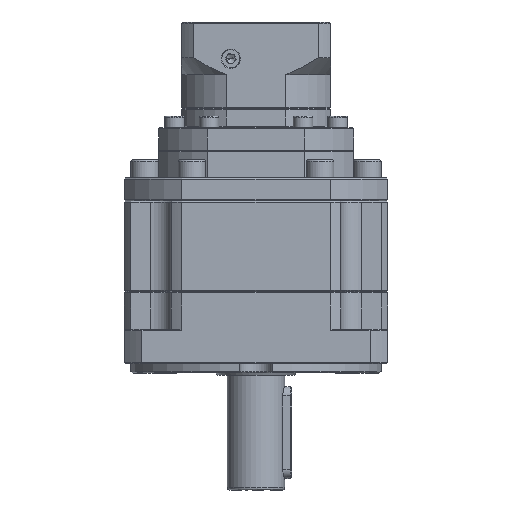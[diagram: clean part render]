
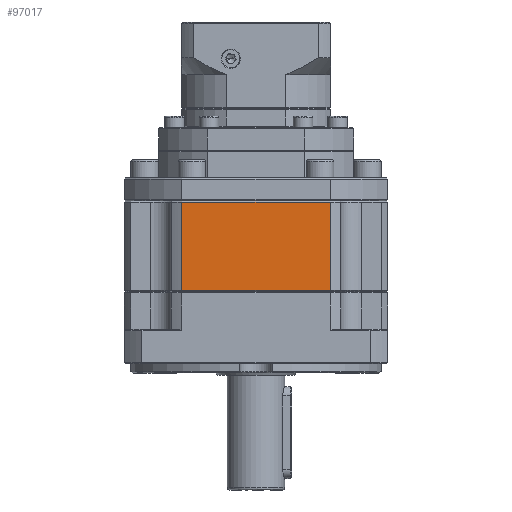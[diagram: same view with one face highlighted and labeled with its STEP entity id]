
A CAD part, front view. The second image highlights one B-rep face of the part: STEP entity #97017.
In plain terms, the highlighted planar face has unit normal (0, -1, 0).
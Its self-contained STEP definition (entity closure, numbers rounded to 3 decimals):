
#2555 = AXIS2_PLACEMENT_3D ( 'NONE', #26291, #3941, #46107 ) ;
#3941 = DIRECTION ( 'NONE',  ( 0., 1., 0. ) ) ;
#10461 = CARTESIAN_POINT ( 'NONE',  ( -1.837, -60.36, 170.152 ) ) ;
#10481 = CARTESIAN_POINT ( 'NONE',  ( -66.637, -60.36, 170.152 ) ) ;
#14952 = EDGE_CURVE ( 'NONE', #114228, #56046, #88122, .T. ) ;
#26291 = CARTESIAN_POINT ( 'NONE',  ( 23.263, -60.36, 209.152 ) ) ;
#27444 = ORIENTED_EDGE ( 'NONE', *, *, #96159, .F. ) ;
#33800 = CARTESIAN_POINT ( 'NONE',  ( -1.837, -60.36, 208.652 ) ) ;
#35805 = ORIENTED_EDGE ( 'NONE', *, *, #14952, .F. ) ;
#46107 = DIRECTION ( 'NONE',  ( -1., 0., 0. ) ) ;
#46242 = CARTESIAN_POINT ( 'NONE',  ( -34.237, -60.36, 208.652 ) ) ;
#51234 = EDGE_CURVE ( 'NONE', #56046, #108912, #87237, .T. ) ;
#56046 = VERTEX_POINT ( 'NONE', #103143 ) ;
#62133 = CARTESIAN_POINT ( 'NONE',  ( -66.637, -60.36, 209.152 ) ) ;
#63527 = DIRECTION ( 'NONE',  ( 0., 0., -1. ) ) ;
#66481 = PLANE ( 'NONE',  #2555 ) ;
#67993 = FACE_OUTER_BOUND ( 'NONE', #110300, .T. ) ;
#79258 = DIRECTION ( 'NONE',  ( -1., 0., 0. ) ) ;
#87237 = LINE ( 'NONE', #46242, #136590 ) ;
#88122 = LINE ( 'NONE', #62133, #110124 ) ;
#95426 = ORIENTED_EDGE ( 'NONE', *, *, #137967, .F. ) ;
#96159 = EDGE_CURVE ( 'NONE', #108912, #132822, #124363, .T. ) ;
#97017 = ADVANCED_FACE ( 'NONE', ( #67993 ), #66481, .F. ) ;
#103143 = CARTESIAN_POINT ( 'NONE',  ( -66.637, -60.36, 208.652 ) ) ;
#106493 = DIRECTION ( 'NONE',  ( 0., 0., 1. ) ) ;
#108912 = VERTEX_POINT ( 'NONE', #33800 ) ;
#110124 = VECTOR ( 'NONE', #106493, 1000. ) ;
#110300 = EDGE_LOOP ( 'NONE', ( #95426, #27444, #138708, #35805 ) ) ;
#112438 = DIRECTION ( 'NONE',  ( 1., 0., 0. ) ) ;
#112512 = VECTOR ( 'NONE', #63527, 1000. ) ;
#114228 = VERTEX_POINT ( 'NONE', #10481 ) ;
#124363 = LINE ( 'NONE', #128817, #112512 ) ;
#125972 = LINE ( 'NONE', #135223, #131018 ) ;
#128817 = CARTESIAN_POINT ( 'NONE',  ( -1.837, -60.36, 209.152 ) ) ;
#131018 = VECTOR ( 'NONE', #79258, 1000. ) ;
#132822 = VERTEX_POINT ( 'NONE', #10461 ) ;
#135223 = CARTESIAN_POINT ( 'NONE',  ( 23.263, -60.36, 170.152 ) ) ;
#136590 = VECTOR ( 'NONE', #112438, 1000. ) ;
#137967 = EDGE_CURVE ( 'NONE', #132822, #114228, #125972, .T. ) ;
#138708 = ORIENTED_EDGE ( 'NONE', *, *, #51234, .F. ) ;
